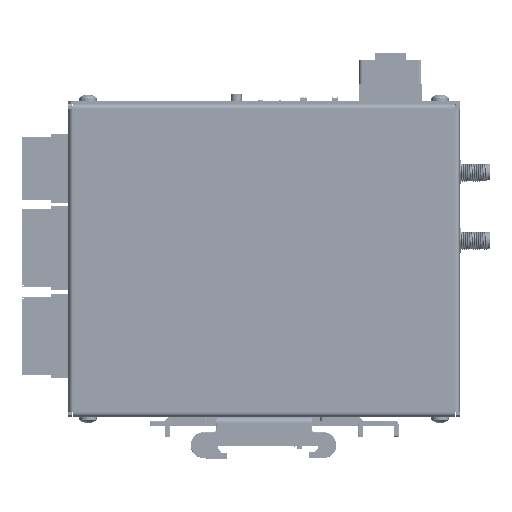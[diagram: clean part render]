
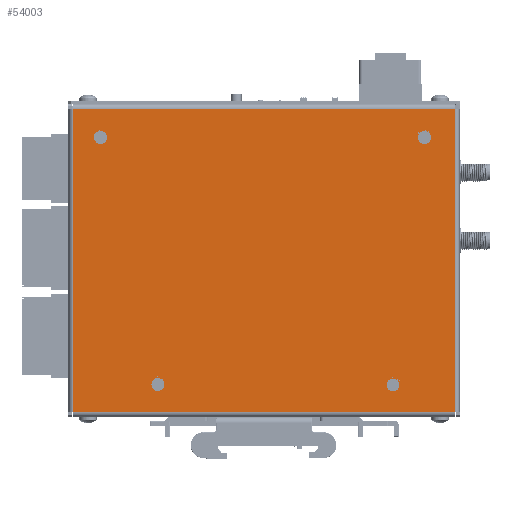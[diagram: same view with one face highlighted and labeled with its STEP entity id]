
A CAD part, left-side view. The second image highlights one B-rep face of the part: STEP entity #54003.
In plain terms, the highlighted planar face has unit normal (-1, 0, 0).
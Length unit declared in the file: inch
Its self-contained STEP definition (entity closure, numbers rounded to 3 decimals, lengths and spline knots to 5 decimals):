
#3866 = CARTESIAN_POINT ( 'NONE',  ( -0.04, -2.052, 1.572 ) ) ;
#9138 = LINE ( 'NONE', #68701, #239254 ) ;
#10641 = LINE ( 'NONE', #334128, #346005 ) ;
#10655 = CIRCLE ( 'NONE', #207087, 0.083 ) ;
#11398 = CARTESIAN_POINT ( 'NONE',  ( -0.04, -2.44, 1.94 ) ) ;
#18446 = VERTEX_POINT ( 'NONE', #288515 ) ;
#21663 = DIRECTION ( 'NONE',  ( -1., 0., 0. ) ) ;
#21665 = EDGE_CURVE ( 'NONE', #129421, #270948, #39333, .T. ) ;
#26183 = AXIS2_PLACEMENT_3D ( 'NONE', #3866, #39454, #311296 ) ;
#27701 = CARTESIAN_POINT ( 'NONE',  ( -0.04, -2.44, -1.94 ) ) ;
#34083 = ORIENTED_EDGE ( 'NONE', *, *, #119856, .F. ) ;
#34610 = CARTESIAN_POINT ( 'NONE',  ( -0.04, 2.089, 1.572 ) ) ;
#36088 = VERTEX_POINT ( 'NONE', #390575 ) ;
#39333 = CIRCLE ( 'NONE', #178870, 0.083 ) ;
#39454 = DIRECTION ( 'NONE',  ( -1., 0., 0. ) ) ;
#44725 = EDGE_CURVE ( 'NONE', #331334, #18446, #225767, .T. ) ;
#46856 = CARTESIAN_POINT ( 'NONE',  ( -0.04, -2.052, 1.655 ) ) ;
#51423 = FACE_BOUND ( 'NONE', #56127, .T. ) ;
#54003 = ADVANCED_FACE ( 'NONE', ( #51423, #289663, #378969, #172531, #138747 ), #333006, .T. ) ;
#56127 = EDGE_LOOP ( 'NONE', ( #315633, #363691 ) ) ;
#57989 = EDGE_CURVE ( 'NONE', #36088, #217618, #317705, .T. ) ;
#62927 = CARTESIAN_POINT ( 'NONE',  ( -0.04, 2.44, -1.94 ) ) ;
#67034 = CARTESIAN_POINT ( 'NONE',  ( -0.04, 1.356, -1.586 ) ) ;
#67703 = AXIS2_PLACEMENT_3D ( 'NONE', #67034, #158269, #279356 ) ;
#68701 = CARTESIAN_POINT ( 'NONE',  ( -0.04, 2.44, 2. ) ) ;
#69056 = ORIENTED_EDGE ( 'NONE', *, *, #252678, .F. ) ;
#74886 = DIRECTION ( 'NONE',  ( 0., 1., 0. ) ) ;
#84799 = AXIS2_PLACEMENT_3D ( 'NONE', #134240, #110287, #378348 ) ;
#85027 = EDGE_CURVE ( 'NONE', #270948, #129421, #10655, .T. ) ;
#87111 = CARTESIAN_POINT ( 'NONE',  ( -0.04, 0., 0. ) ) ;
#90765 = VECTOR ( 'NONE', #269371, 39.37008 ) ;
#103475 = EDGE_LOOP ( 'NONE', ( #214577, #141205 ) ) ;
#110287 = DIRECTION ( 'NONE',  ( -1., 0., 0. ) ) ;
#114436 = ORIENTED_EDGE ( 'NONE', *, *, #264784, .T. ) ;
#116096 = DIRECTION ( 'NONE',  ( -1., 0., 0. ) ) ;
#119223 = ORIENTED_EDGE ( 'NONE', *, *, #44725, .T. ) ;
#119856 = EDGE_CURVE ( 'NONE', #257805, #374949, #146515, .T. ) ;
#121918 = DIRECTION ( 'NONE',  ( -1., 0., 0. ) ) ;
#129421 = VERTEX_POINT ( 'NONE', #190680 ) ;
#134240 = CARTESIAN_POINT ( 'NONE',  ( -0.04, 1.356, -1.586 ) ) ;
#137154 = VERTEX_POINT ( 'NONE', #327841 ) ;
#138747 = FACE_OUTER_BOUND ( 'NONE', #140724, .T. ) ;
#140724 = EDGE_LOOP ( 'NONE', ( #184893, #119223, #234794, #114436 ) ) ;
#141205 = ORIENTED_EDGE ( 'NONE', *, *, #164498, .F. ) ;
#144968 = DIRECTION ( 'NONE',  ( -1., 0., 0. ) ) ;
#145981 = CARTESIAN_POINT ( 'NONE',  ( -0.04, -1.649, -1.592 ) ) ;
#146515 = CIRCLE ( 'NONE', #197322, 0.083 ) ;
#148310 = LINE ( 'NONE', #62927, #90765 ) ;
#150104 = CARTESIAN_POINT ( 'NONE',  ( -0.04, 2.44, -1.94 ) ) ;
#150143 = CARTESIAN_POINT ( 'NONE',  ( -0.04, -2.052, 1.572 ) ) ;
#154449 = CIRCLE ( 'NONE', #84799, 0.083 ) ;
#156055 = DIRECTION ( 'NONE',  ( 0., 0., -1. ) ) ;
#158162 = EDGE_CURVE ( 'NONE', #217618, #36088, #307579, .T. ) ;
#158269 = DIRECTION ( 'NONE',  ( -1., 0., 0. ) ) ;
#164498 = EDGE_CURVE ( 'NONE', #137154, #273296, #154449, .T. ) ;
#172531 = FACE_BOUND ( 'NONE', #390785, .T. ) ;
#174475 = DIRECTION ( 'NONE',  ( -1., 0., 0. ) ) ;
#176777 = DIRECTION ( 'NONE',  ( 0., 0., 1. ) ) ;
#178870 = AXIS2_PLACEMENT_3D ( 'NONE', #34610, #121918, #269000 ) ;
#184893 = ORIENTED_EDGE ( 'NONE', *, *, #187635, .T. ) ;
#187635 = EDGE_CURVE ( 'NONE', #331549, #331334, #10641, .T. ) ;
#190680 = CARTESIAN_POINT ( 'NONE',  ( -0.04, 2.089, 1.489 ) ) ;
#192169 = ORIENTED_EDGE ( 'NONE', *, *, #85027, .F. ) ;
#197322 = AXIS2_PLACEMENT_3D ( 'NONE', #145981, #116096, #233437 ) ;
#199503 = CARTESIAN_POINT ( 'NONE',  ( -0.04, -1.649, -1.675 ) ) ;
#204330 = DIRECTION ( 'NONE',  ( 0., 0., 1. ) ) ;
#207087 = AXIS2_PLACEMENT_3D ( 'NONE', #377021, #21663, #297413 ) ;
#209170 = EDGE_CURVE ( 'NONE', #273296, #137154, #238852, .T. ) ;
#214577 = ORIENTED_EDGE ( 'NONE', *, *, #209170, .F. ) ;
#217618 = VERTEX_POINT ( 'NONE', #46856 ) ;
#225767 = LINE ( 'NONE', #11398, #354579 ) ;
#233437 = DIRECTION ( 'NONE',  ( 0., 0., 1. ) ) ;
#234794 = ORIENTED_EDGE ( 'NONE', *, *, #300360, .T. ) ;
#238852 = CIRCLE ( 'NONE', #67703, 0.083 ) ;
#239254 = VECTOR ( 'NONE', #156055, 39.37008 ) ;
#248801 = CARTESIAN_POINT ( 'NONE',  ( -0.04, -1.649, -1.509 ) ) ;
#251919 = CARTESIAN_POINT ( 'NONE',  ( -0.04, 2.089, 1.655 ) ) ;
#252678 = EDGE_CURVE ( 'NONE', #374949, #257805, #359531, .T. ) ;
#257805 = VERTEX_POINT ( 'NONE', #199503 ) ;
#258738 = CARTESIAN_POINT ( 'NONE',  ( -0.04, -2.44, 1.94 ) ) ;
#264784 = EDGE_CURVE ( 'NONE', #386487, #331549, #148310, .T. ) ;
#269000 = DIRECTION ( 'NONE',  ( 0., 0., 1. ) ) ;
#269371 = DIRECTION ( 'NONE',  ( 0., -1., 0. ) ) ;
#269962 = CARTESIAN_POINT ( 'NONE',  ( -0.04, -1.649, -1.592 ) ) ;
#270940 = AXIS2_PLACEMENT_3D ( 'NONE', #269962, #144968, #176777 ) ;
#270948 = VERTEX_POINT ( 'NONE', #251919 ) ;
#271186 = DIRECTION ( 'NONE',  ( -1., 0., 0. ) ) ;
#273296 = VERTEX_POINT ( 'NONE', #315177 ) ;
#279356 = DIRECTION ( 'NONE',  ( 0., 0., 1. ) ) ;
#288515 = CARTESIAN_POINT ( 'NONE',  ( -0.04, 2.44, 1.94 ) ) ;
#289663 = FACE_BOUND ( 'NONE', #292992, .T. ) ;
#292992 = EDGE_LOOP ( 'NONE', ( #34083, #69056 ) ) ;
#297413 = DIRECTION ( 'NONE',  ( 0., 0., 1. ) ) ;
#300360 = EDGE_CURVE ( 'NONE', #18446, #386487, #9138, .T. ) ;
#307579 = CIRCLE ( 'NONE', #371100, 0.083 ) ;
#309557 = AXIS2_PLACEMENT_3D ( 'NONE', #87111, #174475, #204330 ) ;
#311296 = DIRECTION ( 'NONE',  ( 0., 0., 1. ) ) ;
#315177 = CARTESIAN_POINT ( 'NONE',  ( -0.04, 1.356, -1.669 ) ) ;
#315633 = ORIENTED_EDGE ( 'NONE', *, *, #57989, .F. ) ;
#317705 = CIRCLE ( 'NONE', #26183, 0.083 ) ;
#327841 = CARTESIAN_POINT ( 'NONE',  ( -0.04, 1.356, -1.503 ) ) ;
#331334 = VERTEX_POINT ( 'NONE', #258738 ) ;
#331549 = VERTEX_POINT ( 'NONE', #27701 ) ;
#333006 = PLANE ( 'NONE',  #309557 ) ;
#334128 = CARTESIAN_POINT ( 'NONE',  ( -0.04, -2.44, -2. ) ) ;
#346005 = VECTOR ( 'NONE', #371844, 39.37008 ) ;
#354579 = VECTOR ( 'NONE', #74886, 39.37008 ) ;
#358161 = ORIENTED_EDGE ( 'NONE', *, *, #21665, .F. ) ;
#359531 = CIRCLE ( 'NONE', #270940, 0.083 ) ;
#363691 = ORIENTED_EDGE ( 'NONE', *, *, #158162, .F. ) ;
#371100 = AXIS2_PLACEMENT_3D ( 'NONE', #150143, #271186, #392236 ) ;
#371844 = DIRECTION ( 'NONE',  ( 0., 0., 1. ) ) ;
#374949 = VERTEX_POINT ( 'NONE', #248801 ) ;
#377021 = CARTESIAN_POINT ( 'NONE',  ( -0.04, 2.089, 1.572 ) ) ;
#378348 = DIRECTION ( 'NONE',  ( 0., 0., 1. ) ) ;
#378969 = FACE_BOUND ( 'NONE', #103475, .T. ) ;
#386487 = VERTEX_POINT ( 'NONE', #150104 ) ;
#390575 = CARTESIAN_POINT ( 'NONE',  ( -0.04, -2.052, 1.489 ) ) ;
#390785 = EDGE_LOOP ( 'NONE', ( #358161, #192169 ) ) ;
#392236 = DIRECTION ( 'NONE',  ( 0., 0., 1. ) ) ;
